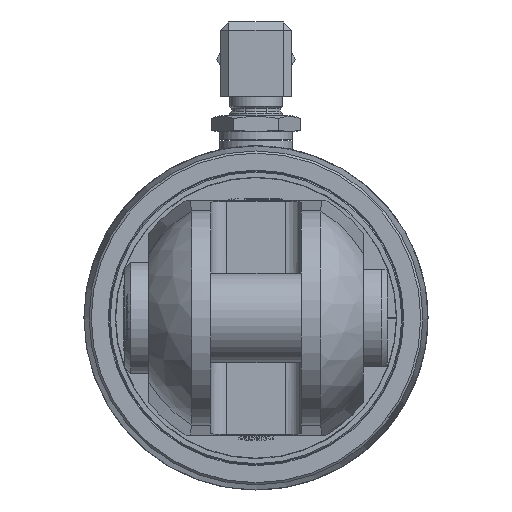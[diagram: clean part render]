
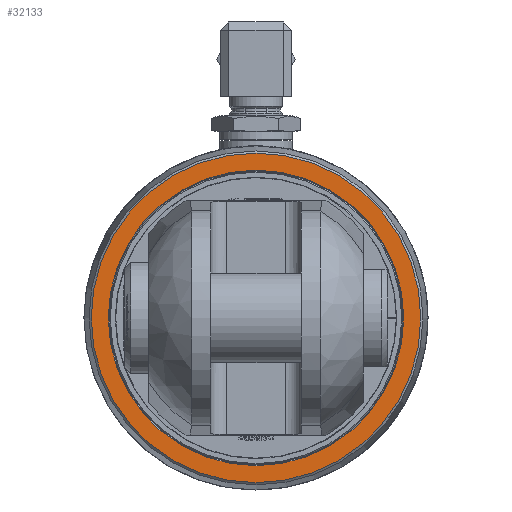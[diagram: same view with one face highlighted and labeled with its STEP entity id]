
A CAD part, left-side view. The second image highlights one B-rep face of the part: STEP entity #32133.
In plain terms, the highlighted planar face has unit normal (-1, 0, 0).
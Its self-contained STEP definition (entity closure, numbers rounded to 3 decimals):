
#2088=FACE_BOUND('',#5204,.T.);
#2385=PLANE('',#34127);
#3448=FACE_OUTER_BOUND('',#5203,.T.);
#5203=EDGE_LOOP('',(#22059));
#5204=EDGE_LOOP('',(#22060));
#12834=CIRCLE('',#34125,40.988);
#12835=CIRCLE('',#34128,36.75);
#13447=VERTEX_POINT('',#43023);
#13448=VERTEX_POINT('',#43029);
#16772=EDGE_CURVE('',#13447,#13447,#12834,.T.);
#16774=EDGE_CURVE('',#13448,#13448,#12835,.T.);
#22059=ORIENTED_EDGE('',*,*,#16772,.F.);
#22060=ORIENTED_EDGE('',*,*,#16774,.F.);
#32133=ADVANCED_FACE('',(#3448,#2088),#2385,.F.);
#34125=AXIS2_PLACEMENT_3D('',#43025,#36540,#36541);
#34127=AXIS2_PLACEMENT_3D('',#43028,#36545,#36546);
#34128=AXIS2_PLACEMENT_3D('',#43030,#36547,#36548);
#36540=DIRECTION('center_axis',(1.,0.,0.));
#36541=DIRECTION('ref_axis',(0.,-1.,0.));
#36545=DIRECTION('center_axis',(1.,0.,0.));
#36546=DIRECTION('ref_axis',(0.,0.,-1.));
#36547=DIRECTION('center_axis',(-1.,0.,0.));
#36548=DIRECTION('ref_axis',(0.,-1.,0.));
#43023=CARTESIAN_POINT('',(-1202.5,40.988,0.));
#43025=CARTESIAN_POINT('Origin',(-1202.5,0.,0.));
#43028=CARTESIAN_POINT('Origin',(-1202.5,0.,0.));
#43029=CARTESIAN_POINT('',(-1202.5,36.75,0.));
#43030=CARTESIAN_POINT('Origin',(-1202.5,0.,0.));
